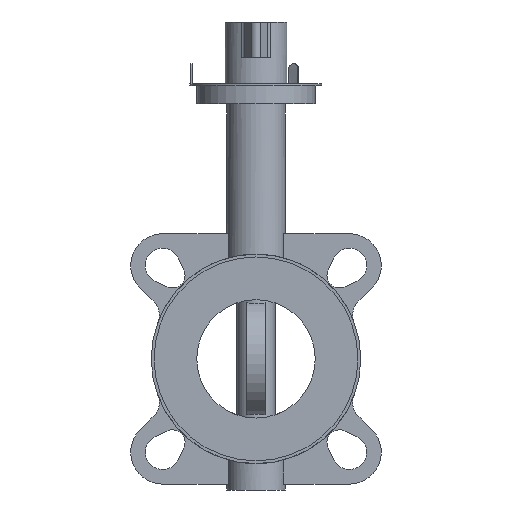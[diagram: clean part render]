
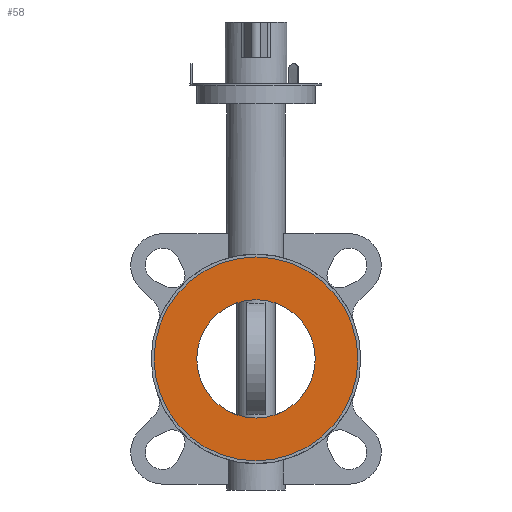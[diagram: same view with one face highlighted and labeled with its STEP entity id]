
A CAD part, left-side view. The second image highlights one B-rep face of the part: STEP entity #58.
In plain terms, the highlighted planar face has unit normal (-1, 0, 0).
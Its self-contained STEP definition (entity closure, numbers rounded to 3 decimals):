
#58=ADVANCED_FACE('',(#6583,#6585),#6587,.F.);
#6583=FACE_BOUND('',#6584,.T.);
#6584=EDGE_LOOP('',(#11784));
#6585=FACE_BOUND('',#6586,.T.);
#6586=EDGE_LOOP('',(#11785));
#6587=PLANE('',#6588);
#6588=AXIS2_PLACEMENT_3D('',#6589,#6590,#6591);
#6589=CARTESIAN_POINT('',(-23.,0.,0.));
#6590=DIRECTION('',(1.,0.,0.));
#6591=DIRECTION('',(0.,1.,0.));
#11784=ORIENTED_EDGE('',*,*,#15963,.T.);
#11785=ORIENTED_EDGE('',*,*,#15964,.T.);
#15963=EDGE_CURVE('',#18084,#18084,#18085,.F.);
#15964=EDGE_CURVE('',#18086,#18086,#18087,.T.);
#18084=VERTEX_POINT('',#21583);
#18085=CIRCLE('',#21584,56.);
#18086=VERTEX_POINT('',#21588);
#18087=CIRCLE('',#21589,32.5);
#21583=CARTESIAN_POINT('',(-23.,56.,0.));
#21584=AXIS2_PLACEMENT_3D('',#21585,#21586,#21587);
#21585=CARTESIAN_POINT('',(-23.,0.,0.));
#21586=DIRECTION('',(1.,0.,0.));
#21587=DIRECTION('',(0.,1.,0.));
#21588=CARTESIAN_POINT('',(-23.,32.5,0.));
#21589=AXIS2_PLACEMENT_3D('',#21590,#21591,#21592);
#21590=CARTESIAN_POINT('',(-23.,0.,0.));
#21591=DIRECTION('',(1.,0.,0.));
#21592=DIRECTION('',(0.,1.,0.));
